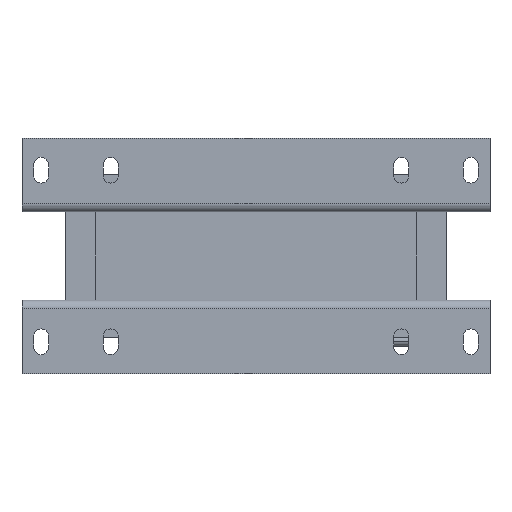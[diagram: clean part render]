
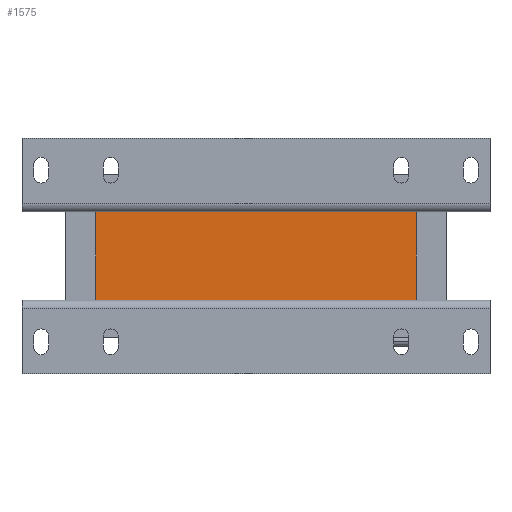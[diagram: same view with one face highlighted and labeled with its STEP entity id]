
A CAD part, front view. The second image highlights one B-rep face of the part: STEP entity #1575.
In plain terms, the highlighted planar face has unit normal (0, -1, 0).
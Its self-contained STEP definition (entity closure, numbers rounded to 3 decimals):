
#185 = VERTEX_POINT ( 'NONE', #10013 ) ;
#266 = EDGE_CURVE ( 'NONE', #185, #7551, #12729, .T. ) ;
#360 = LINE ( 'NONE', #5691, #1221 ) ;
#444 = EDGE_LOOP ( 'NONE', ( #15882, #7813, #6954, #8238 ) ) ;
#1195 = LINE ( 'NONE', #6639, #7765 ) ;
#1216 = VERTEX_POINT ( 'NONE', #8674 ) ;
#1221 = VECTOR ( 'NONE', #2748, 1000. ) ;
#1575 = ADVANCED_FACE ( 'NONE', ( #11529 ), #17008, .T. ) ;
#2141 = CARTESIAN_POINT ( 'NONE',  ( -75., 7., 20.65 ) ) ;
#2172 = DIRECTION ( 'NONE',  ( 0., 0., -1. ) ) ;
#2748 = DIRECTION ( 'NONE',  ( 0., 0., 1. ) ) ;
#3518 = CARTESIAN_POINT ( 'NONE',  ( -75., 7., -19.65 ) ) ;
#3680 = EDGE_CURVE ( 'NONE', #7551, #6788, #1195, .T. ) ;
#5407 = DIRECTION ( 'NONE',  ( 1., 0., 0. ) ) ;
#5691 = CARTESIAN_POINT ( 'NONE',  ( 75., 7., -19.65 ) ) ;
#6052 = CARTESIAN_POINT ( 'NONE',  ( -75., 7., -19.65 ) ) ;
#6639 = CARTESIAN_POINT ( 'NONE',  ( -75., 7., 20.65 ) ) ;
#6788 = VERTEX_POINT ( 'NONE', #7889 ) ;
#6897 = AXIS2_PLACEMENT_3D ( 'NONE', #3518, #14309, #2172 ) ;
#6954 = ORIENTED_EDGE ( 'NONE', *, *, #266, .F. ) ;
#7551 = VERTEX_POINT ( 'NONE', #2141 ) ;
#7765 = VECTOR ( 'NONE', #5407, 1000. ) ;
#7781 = CARTESIAN_POINT ( 'NONE',  ( -75., 7., -20.65 ) ) ;
#7784 = EDGE_CURVE ( 'NONE', #1216, #6788, #360, .T. ) ;
#7813 = ORIENTED_EDGE ( 'NONE', *, *, #3680, .F. ) ;
#7889 = CARTESIAN_POINT ( 'NONE',  ( 75., 7., 20.65 ) ) ;
#8238 = ORIENTED_EDGE ( 'NONE', *, *, #14016, .T. ) ;
#8674 = CARTESIAN_POINT ( 'NONE',  ( 75., 7., -20.65 ) ) ;
#9714 = VECTOR ( 'NONE', #11411, 1000. ) ;
#10013 = CARTESIAN_POINT ( 'NONE',  ( -75., 7., -20.65 ) ) ;
#11411 = DIRECTION ( 'NONE',  ( 0., 0., 1. ) ) ;
#11529 = FACE_OUTER_BOUND ( 'NONE', #444, .T. ) ;
#11877 = DIRECTION ( 'NONE',  ( 1., 0., 0. ) ) ;
#12729 = LINE ( 'NONE', #6052, #9714 ) ;
#13777 = VECTOR ( 'NONE', #11877, 1000. ) ;
#14016 = EDGE_CURVE ( 'NONE', #185, #1216, #14402, .T. ) ;
#14309 = DIRECTION ( 'NONE',  ( 0., -1., 0. ) ) ;
#14402 = LINE ( 'NONE', #7781, #13777 ) ;
#15882 = ORIENTED_EDGE ( 'NONE', *, *, #7784, .T. ) ;
#17008 = PLANE ( 'NONE',  #6897 ) ;
